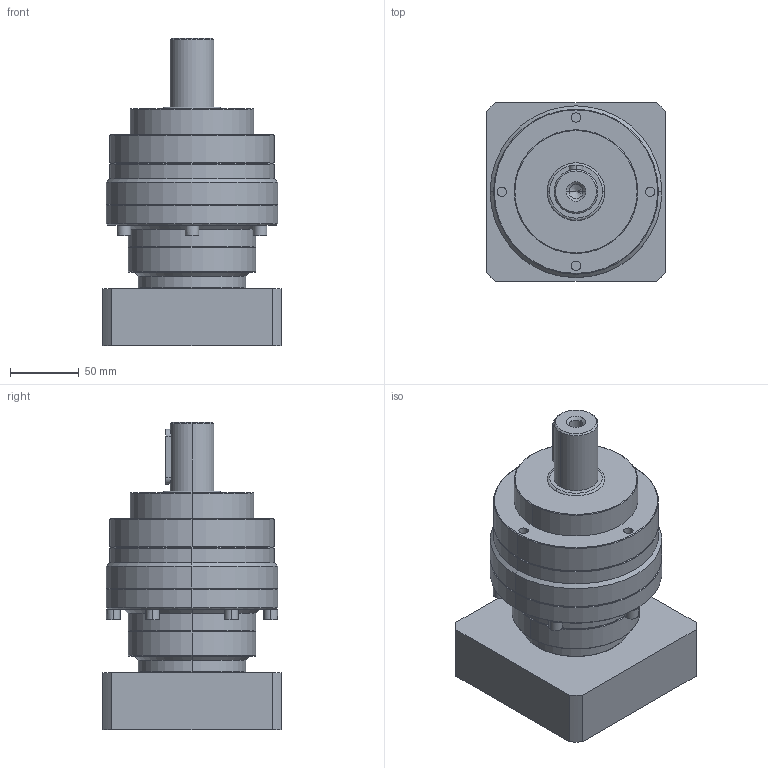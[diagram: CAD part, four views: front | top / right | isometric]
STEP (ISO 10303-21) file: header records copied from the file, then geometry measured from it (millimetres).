
FILE_DESCRIPTION (( 'STEP AP214' ), '1' );
FILE_NAME ('VRL-120-L2-S2-P1 24-110-145-M8.STEP', '2024-02-03T03:50:46', ( '微软用户' ), ( '微软中国' ), 'SwSTEP 2.0', 'SolidWorks 2018', '' );
FILE_SCHEMA (( 'AUTOMOTIVE_DESIGN' ));
Length unit declared in the file: millimetre
Products named in the file (1): VRL-120-L2-S2-P1 24-110-145-M8
Bounding box: 130 x 130 x 223.5 mm (x, y, z)
Volume: 1763412.9 mm3; surface area: 139561.6 mm2
Topology: 1 solids, 1 shells, 183 faces, 417 edges, 259 vertices
Faces by surface type: plane 84, cylinder 63, cone 34, torus 2
Entity records: 5247 total; most frequent: DIRECTION 959, CARTESIAN_POINT 931, ORIENTED_EDGE 830, EDGE_CURVE 415, AXIS2_PLACEMENT_3D 363, VERTEX_POINT 259, LINE 233, VECTOR 233
